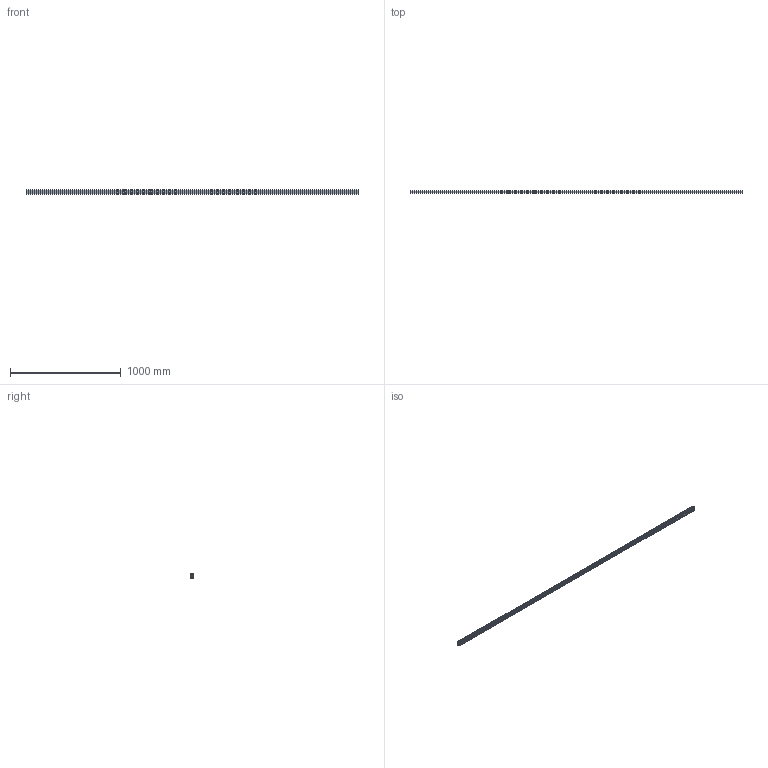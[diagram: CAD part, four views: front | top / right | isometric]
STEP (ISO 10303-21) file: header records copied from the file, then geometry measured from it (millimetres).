
FILE_DESCRIPTION (( 'STEP AP203' ), '1' );
FILE_NAME ('20203005_Profil 5 20x40, schwarz_0.step', '2021-06-18T12:29:36', ( '' ), ( '' ), 'SwSTEP 2.0', 'SolidWorks 2021', '' );
FILE_SCHEMA (( 'CONFIG_CONTROL_DESIGN' ));
Length unit declared in the file: millimetre
Products named in the file (1): 20203005_Profil 5 20x40, schwarz_0
Bounding box: 3000 x 20 x 40 mm (x, y, z)
Volume: 995240.9 mm3; surface area: 916680.8 mm2
Topology: 1 solids, 1 shells, 126 faces, 372 edges, 248 vertices
Faces by surface type: cylinder 66, plane 60
Entity records: 4337 total; most frequent: DIRECTION 758, CARTESIAN_POINT 747, ORIENTED_EDGE 744, EDGE_CURVE 372, AXIS2_PLACEMENT_3D 259, VERTEX_POINT 248, VECTOR 240, LINE 240
